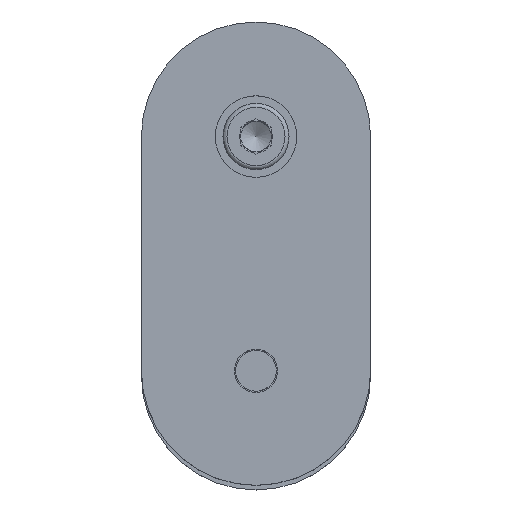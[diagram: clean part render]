
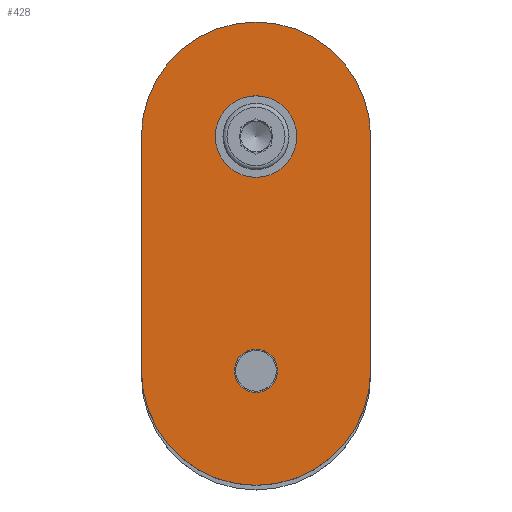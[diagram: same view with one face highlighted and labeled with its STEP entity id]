
A CAD part, top view. The second image highlights one B-rep face of the part: STEP entity #428.
In plain terms, the highlighted planar face has unit normal (0, 0, 1).
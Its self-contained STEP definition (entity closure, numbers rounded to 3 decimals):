
#52 = DIRECTION ( 'NONE',  ( 1., 0., 0. ) ) ;
#135 = CARTESIAN_POINT ( 'NONE',  ( 45., -46., 8. ) ) ;
#177 = ORIENTED_EDGE ( 'NONE', *, *, #1441, .T. ) ;
#186 = AXIS2_PLACEMENT_3D ( 'NONE', #298, #1955, #488 ) ;
#229 = CARTESIAN_POINT ( 'NONE',  ( 22.5, 0., 8. ) ) ;
#298 = CARTESIAN_POINT ( 'NONE',  ( 22.5, -46., 8. ) ) ;
#428 = ADVANCED_FACE ( 'NONE', ( #739, #579, #547 ), #911, .T. ) ;
#432 = VERTEX_POINT ( 'NONE', #1424 ) ;
#443 = LINE ( 'NONE', #782, #1172 ) ;
#454 = DIRECTION ( 'NONE',  ( -1., 0., 0. ) ) ;
#482 = LINE ( 'NONE', #2029, #1388 ) ;
#488 = DIRECTION ( 'NONE',  ( 1., 0., 0. ) ) ;
#509 = EDGE_CURVE ( 'NONE', #899, #1843, #443, .T. ) ;
#532 = EDGE_CURVE ( 'NONE', #1843, #432, #723, .T. ) ;
#534 = EDGE_LOOP ( 'NONE', ( #639, #731, #2015, #177 ) ) ;
#547 = FACE_BOUND ( 'NONE', #1700, .T. ) ;
#579 = FACE_OUTER_BOUND ( 'NONE', #534, .T. ) ;
#602 = DIRECTION ( 'NONE',  ( 0., 0., 1. ) ) ;
#639 = ORIENTED_EDGE ( 'NONE', *, *, #1609, .T. ) ;
#723 = CIRCLE ( 'NONE', #860, 22.5 ) ;
#731 = ORIENTED_EDGE ( 'NONE', *, *, #509, .T. ) ;
#739 = FACE_BOUND ( 'NONE', #1653, .T. ) ;
#745 = DIRECTION ( 'NONE',  ( 0., -1., 0. ) ) ;
#756 = CARTESIAN_POINT ( 'NONE',  ( 22.5, 0., 8. ) ) ;
#782 = CARTESIAN_POINT ( 'NONE',  ( 45., 0., 8. ) ) ;
#819 = VERTEX_POINT ( 'NONE', #1652 ) ;
#852 = DIRECTION ( 'NONE',  ( 0., 0., 1. ) ) ;
#860 = AXIS2_PLACEMENT_3D ( 'NONE', #756, #1752, #454 ) ;
#893 = CIRCLE ( 'NONE', #1065, 4.25 ) ;
#899 = VERTEX_POINT ( 'NONE', #135 ) ;
#911 = PLANE ( 'NONE',  #1096 ) ;
#971 = DIRECTION ( 'NONE',  ( 1., 0., 0. ) ) ;
#1000 = EDGE_CURVE ( 'NONE', #1516, #1516, #1035, .T. ) ;
#1024 = CARTESIAN_POINT ( 'NONE',  ( 26.75, -46., 8. ) ) ;
#1035 = CIRCLE ( 'NONE', #1557, 4.25 ) ;
#1065 = AXIS2_PLACEMENT_3D ( 'NONE', #229, #1555, #52 ) ;
#1070 = DIRECTION ( 'NONE',  ( 1., 0., 0. ) ) ;
#1096 = AXIS2_PLACEMENT_3D ( 'NONE', #1458, #602, #1070 ) ;
#1148 = EDGE_CURVE ( 'NONE', #819, #819, #893, .T. ) ;
#1172 = VECTOR ( 'NONE', #1742, 1000. ) ;
#1239 = CIRCLE ( 'NONE', #186, 22.5 ) ;
#1323 = CARTESIAN_POINT ( 'NONE',  ( 0., -46., 8. ) ) ;
#1388 = VECTOR ( 'NONE', #745, 1000. ) ;
#1424 = CARTESIAN_POINT ( 'NONE',  ( 0., 0., 8. ) ) ;
#1441 = EDGE_CURVE ( 'NONE', #432, #1738, #482, .T. ) ;
#1458 = CARTESIAN_POINT ( 'NONE',  ( 22.5, -46., 8. ) ) ;
#1495 = ORIENTED_EDGE ( 'NONE', *, *, #1000, .F. ) ;
#1516 = VERTEX_POINT ( 'NONE', #1024 ) ;
#1555 = DIRECTION ( 'NONE',  ( 0., 0., 1. ) ) ;
#1557 = AXIS2_PLACEMENT_3D ( 'NONE', #1791, #852, #971 ) ;
#1609 = EDGE_CURVE ( 'NONE', #1738, #899, #1239, .T. ) ;
#1652 = CARTESIAN_POINT ( 'NONE',  ( 26.75, 0., 8. ) ) ;
#1653 = EDGE_LOOP ( 'NONE', ( #1669 ) ) ;
#1669 = ORIENTED_EDGE ( 'NONE', *, *, #1148, .F. ) ;
#1700 = EDGE_LOOP ( 'NONE', ( #1495 ) ) ;
#1738 = VERTEX_POINT ( 'NONE', #1323 ) ;
#1742 = DIRECTION ( 'NONE',  ( 0., 1., 0. ) ) ;
#1752 = DIRECTION ( 'NONE',  ( 0., 0., 1. ) ) ;
#1791 = CARTESIAN_POINT ( 'NONE',  ( 22.5, -46., 8. ) ) ;
#1843 = VERTEX_POINT ( 'NONE', #1863 ) ;
#1863 = CARTESIAN_POINT ( 'NONE',  ( 45., 0., 8. ) ) ;
#1955 = DIRECTION ( 'NONE',  ( 0., 0., 1. ) ) ;
#2015 = ORIENTED_EDGE ( 'NONE', *, *, #532, .T. ) ;
#2029 = CARTESIAN_POINT ( 'NONE',  ( 0., 0., 8. ) ) ;
